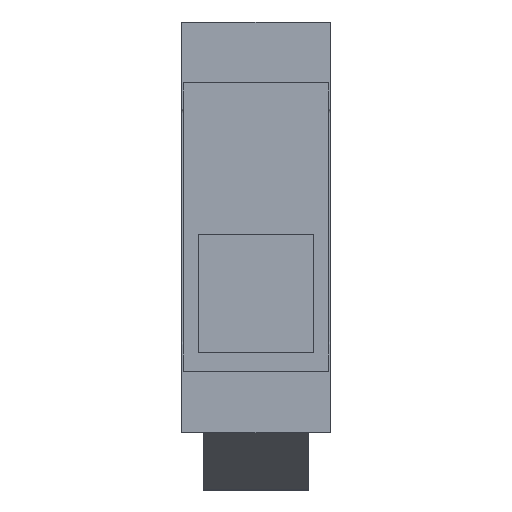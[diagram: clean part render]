
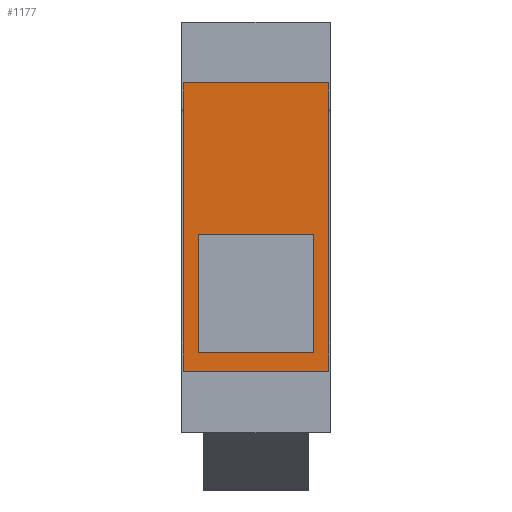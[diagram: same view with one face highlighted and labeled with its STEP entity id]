
A CAD part, top view. The second image highlights one B-rep face of the part: STEP entity #1177.
In plain terms, the highlighted planar face has unit normal (0, 0, 1).
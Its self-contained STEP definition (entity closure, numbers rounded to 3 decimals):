
#1018 = VERTEX_POINT ( 'NONE', #2876 ) ;
#1035 = VERTEX_POINT ( 'NONE', #2911 ) ;
#1054 = VERTEX_POINT ( 'NONE', #2946 ) ;
#1090 = EDGE_CURVE ( 'NONE', #1035, #1018, #3017, .T. ) ;
#1099 = EDGE_CURVE ( 'NONE', #1054, #1117, #3008, .T. ) ;
#1117 = VERTEX_POINT ( 'NONE', #3050 ) ;
#1132 = VERTEX_POINT ( 'NONE', #3084 ) ;
#1134 = EDGE_CURVE ( 'NONE', #1018, #1132, #3083, .T. ) ;
#1138 = EDGE_CURVE ( 'NONE', #1139, #1054, #3073, .T. ) ;
#1139 = VERTEX_POINT ( 'NONE', #3069 ) ;
#1148 = VERTEX_POINT ( 'NONE', #3123 ) ;
#1156 = EDGE_CURVE ( 'NONE', #1157, #1035, #3110, .T. ) ;
#1157 = VERTEX_POINT ( 'NONE', #3106 ) ;
#1169 = ORIENTED_EDGE ( 'NONE', *, *, #1134, .T. ) ;
#1170 = ORIENTED_EDGE ( 'NONE', *, *, #1175, .T. ) ;
#1171 = ORIENTED_EDGE ( 'NONE', *, *, #1138, .T. ) ;
#1172 = ORIENTED_EDGE ( 'NONE', *, *, #1099, .T. ) ;
#1173 = ORIENTED_EDGE ( 'NONE', *, *, #1203, .T. ) ;
#1174 = ORIENTED_EDGE ( 'NONE', *, *, #1194, .T. ) ;
#1175 = EDGE_CURVE ( 'NONE', #1132, #1139, #3156, .T. ) ;
#1177 = ADVANCED_FACE ( 'NONE', ( #3152, #3151 ), #3150, .F. ) ;
#1178 = EDGE_LOOP ( 'NONE', ( #1179, #1183, #1186, #1244 ) ) ;
#1179 = ORIENTED_EDGE ( 'NONE', *, *, #1180, .T. ) ;
#1180 = EDGE_CURVE ( 'NONE', #1181, #1182, #3145, .T. ) ;
#1181 = VERTEX_POINT ( 'NONE', #3141 ) ;
#1182 = VERTEX_POINT ( 'NONE', #3140 ) ;
#1183 = ORIENTED_EDGE ( 'NONE', *, *, #1184, .F. ) ;
#1184 = EDGE_CURVE ( 'NONE', #1185, #1182, #3139, .T. ) ;
#1185 = VERTEX_POINT ( 'NONE', #3135 ) ;
#1186 = ORIENTED_EDGE ( 'NONE', *, *, #1187, .F. ) ;
#1187 = EDGE_CURVE ( 'NONE', #1188, #1185, #3134, .T. ) ;
#1188 = VERTEX_POINT ( 'NONE', #3130 ) ;
#1194 = EDGE_CURVE ( 'NONE', #1148, #1157, #3190, .T. ) ;
#1203 = EDGE_CURVE ( 'NONE', #1117, #1148, #3176, .T. ) ;
#1244 = ORIENTED_EDGE ( 'NONE', *, *, #1245, .T. ) ;
#1245 = EDGE_CURVE ( 'NONE', #1188, #1181, #3236, .T. ) ;
#1246 = EDGE_LOOP ( 'NONE', ( #1247, #1248, #1169, #1170, #1171, #1172, #1173, #1174 ) ) ;
#1247 = ORIENTED_EDGE ( 'NONE', *, *, #1156, .T. ) ;
#1248 = ORIENTED_EDGE ( 'NONE', *, *, #1090, .T. ) ;
#2876 = CARTESIAN_POINT ( 'NONE',  ( 5.5, 24.4, -0.1 ) ) ;
#2911 = CARTESIAN_POINT ( 'NONE',  ( 5.5, 6.6, -0.1 ) ) ;
#2946 = CARTESIAN_POINT ( 'NONE',  ( -5.5, 24.4, -0.1 ) ) ;
#3005 = DIRECTION ( 'NONE',  ( 0., -1., 0. ) ) ;
#3006 = VECTOR ( 'NONE', #3005, 1000. ) ;
#3007 = CARTESIAN_POINT ( 'NONE',  ( -5.5, 6.9, -0.1 ) ) ;
#3008 = LINE ( 'NONE', #3007, #3006 ) ;
#3014 = DIRECTION ( 'NONE',  ( 0., 1., 0. ) ) ;
#3015 = VECTOR ( 'NONE', #3014, 1000. ) ;
#3016 = CARTESIAN_POINT ( 'NONE',  ( 5.5, 26.4, -0.1 ) ) ;
#3017 = LINE ( 'NONE', #3016, #3015 ) ;
#3050 = CARTESIAN_POINT ( 'NONE',  ( -5.5, 6.6, -0.1 ) ) ;
#3069 = CARTESIAN_POINT ( 'NONE',  ( -5.5, 26.4, -0.1 ) ) ;
#3070 = DIRECTION ( 'NONE',  ( 0., -1., 0. ) ) ;
#3071 = VECTOR ( 'NONE', #3070, 1000. ) ;
#3072 = CARTESIAN_POINT ( 'NONE',  ( -5.5, 26.4, -0.1 ) ) ;
#3073 = LINE ( 'NONE', #3072, #3071 ) ;
#3080 = DIRECTION ( 'NONE',  ( 0., 1., 0. ) ) ;
#3081 = VECTOR ( 'NONE', #3080, 1000. ) ;
#3082 = CARTESIAN_POINT ( 'NONE',  ( 5.5, 26.4, -0.1 ) ) ;
#3083 = LINE ( 'NONE', #3082, #3081 ) ;
#3084 = CARTESIAN_POINT ( 'NONE',  ( 5.5, 26.4, -0.1 ) ) ;
#3106 = CARTESIAN_POINT ( 'NONE',  ( 5.5, 4.6, -0.1 ) ) ;
#3107 = DIRECTION ( 'NONE',  ( 0., 1., 0. ) ) ;
#3108 = VECTOR ( 'NONE', #3107, 1000. ) ;
#3109 = CARTESIAN_POINT ( 'NONE',  ( 5.5, 26.4, -0.1 ) ) ;
#3110 = LINE ( 'NONE', #3109, #3108 ) ;
#3123 = CARTESIAN_POINT ( 'NONE',  ( -5.5, 4.6, -0.1 ) ) ;
#3130 = CARTESIAN_POINT ( 'NONE',  ( -4.349, 14.947, -0.1 ) ) ;
#3131 = DIRECTION ( 'NONE',  ( 0., -1., 0. ) ) ;
#3132 = VECTOR ( 'NONE', #3131, 1000. ) ;
#3133 = CARTESIAN_POINT ( 'NONE',  ( -4.349, -10.279, -0.1 ) ) ;
#3134 = LINE ( 'NONE', #3133, #3132 ) ;
#3135 = CARTESIAN_POINT ( 'NONE',  ( -4.349, 6.053, -0.1 ) ) ;
#3136 = DIRECTION ( 'NONE',  ( 1., 0., 0. ) ) ;
#3137 = VECTOR ( 'NONE', #3136, 1000. ) ;
#3138 = CARTESIAN_POINT ( 'NONE',  ( 0., 6.053, -0.1 ) ) ;
#3139 = LINE ( 'NONE', #3138, #3137 ) ;
#3140 = CARTESIAN_POINT ( 'NONE',  ( 4.349, 6.053, -0.1 ) ) ;
#3141 = CARTESIAN_POINT ( 'NONE',  ( 4.349, 14.947, -0.1 ) ) ;
#3142 = DIRECTION ( 'NONE',  ( 0., -1., 0. ) ) ;
#3143 = VECTOR ( 'NONE', #3142, 1000. ) ;
#3144 = CARTESIAN_POINT ( 'NONE',  ( 4.349, -10.279, -0.1 ) ) ;
#3145 = LINE ( 'NONE', #3144, #3143 ) ;
#3146 = DIRECTION ( 'NONE',  ( -1., 0., 0. ) ) ;
#3147 = DIRECTION ( 'NONE',  ( 0., 0., -1. ) ) ;
#3148 = CARTESIAN_POINT ( 'NONE',  ( 5.5, 4.6, -0.1 ) ) ;
#3149 = AXIS2_PLACEMENT_3D ( 'NONE', #3148, #3147, #3146 ) ;
#3150 = PLANE ( 'NONE',  #3149 ) ;
#3151 = FACE_OUTER_BOUND ( 'NONE', #1246, .T. ) ;
#3152 = FACE_BOUND ( 'NONE', #1178, .T. ) ;
#3153 = DIRECTION ( 'NONE',  ( -1., 0., 0. ) ) ;
#3154 = VECTOR ( 'NONE', #3153, 1000. ) ;
#3155 = CARTESIAN_POINT ( 'NONE',  ( 5.5, 26.4, -0.1 ) ) ;
#3156 = LINE ( 'NONE', #3155, #3154 ) ;
#3173 = DIRECTION ( 'NONE',  ( 0., -1., 0. ) ) ;
#3174 = VECTOR ( 'NONE', #3173, 1000. ) ;
#3175 = CARTESIAN_POINT ( 'NONE',  ( -5.5, 26.4, -0.1 ) ) ;
#3176 = LINE ( 'NONE', #3175, #3174 ) ;
#3187 = DIRECTION ( 'NONE',  ( 1., 0., 0. ) ) ;
#3188 = VECTOR ( 'NONE', #3187, 1000. ) ;
#3189 = CARTESIAN_POINT ( 'NONE',  ( 5.5, 4.6, -0.1 ) ) ;
#3190 = LINE ( 'NONE', #3189, #3188 ) ;
#3233 = DIRECTION ( 'NONE',  ( 1., 0., 0. ) ) ;
#3234 = VECTOR ( 'NONE', #3233, 1000. ) ;
#3235 = CARTESIAN_POINT ( 'NONE',  ( 0., 14.947, -0.1 ) ) ;
#3236 = LINE ( 'NONE', #3235, #3234 ) ;
